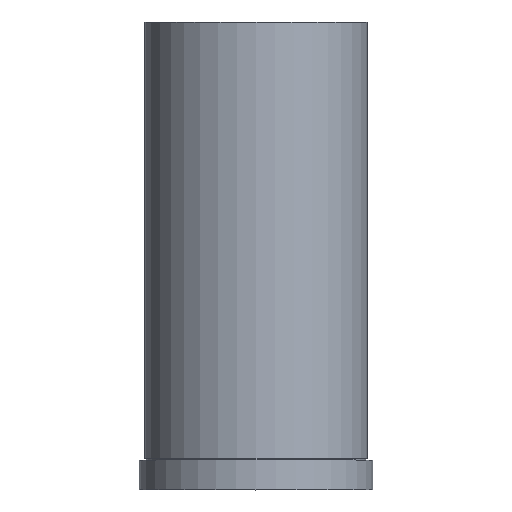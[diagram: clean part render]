
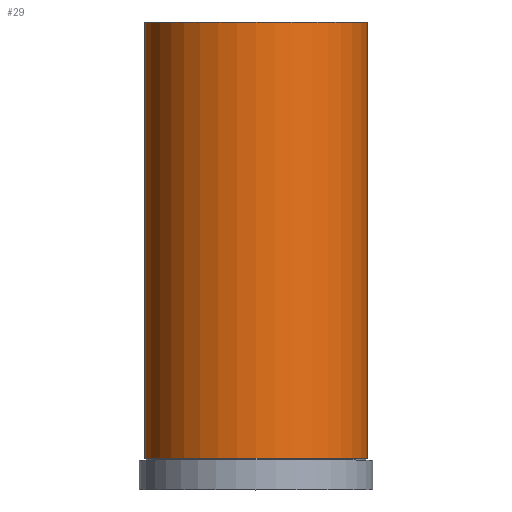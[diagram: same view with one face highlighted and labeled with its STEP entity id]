
A CAD part, top view. The second image highlights one B-rep face of the part: STEP entity #29.
In plain terms, the highlighted cylindrical face has radius 47.631 mm (diameter 95.263 mm), a partial arc.
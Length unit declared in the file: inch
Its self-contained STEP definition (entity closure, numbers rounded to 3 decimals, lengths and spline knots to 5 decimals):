
#29 = ADVANCED_FACE ( 'NONE', ( #235 ), #234, .T. ) ;
#30 = EDGE_LOOP ( 'NONE', ( #31, #35, #79, #71 ) ) ;
#31 = ORIENTED_EDGE ( 'NONE', *, *, #32, .T. ) ;
#32 = EDGE_CURVE ( 'NONE', #33, #34, #247, .T. ) ;
#33 = VERTEX_POINT ( 'NONE', #242 ) ;
#34 = VERTEX_POINT ( 'NONE', #241 ) ;
#35 = ORIENTED_EDGE ( 'NONE', *, *, #36, .T. ) ;
#36 = EDGE_CURVE ( 'NONE', #34, #37, #177, .T. ) ;
#37 = VERTEX_POINT ( 'NONE', #261 ) ;
#71 = ORIENTED_EDGE ( 'NONE', *, *, #76, .F. ) ;
#76 = EDGE_CURVE ( 'NONE', #33, #78, #306, .T. ) ;
#77 = EDGE_CURVE ( 'NONE', #78, #37, #348, .T. ) ;
#78 = VERTEX_POINT ( 'NONE', #343 ) ;
#79 = ORIENTED_EDGE ( 'NONE', *, *, #77, .F. ) ;
#177 = LINE ( 'NONE', #215, #214 ) ;
#214 = VECTOR ( 'NONE', #216, 39.37008 ) ;
#215 = CARTESIAN_POINT ( 'NONE',  ( -1.87525, -39.37008, 0. ) ) ;
#216 = DIRECTION ( 'NONE',  ( 0., -1., 0. ) ) ;
#232 = CARTESIAN_POINT ( 'NONE',  ( 0., -39.37008, 0. ) ) ;
#233 = AXIS2_PLACEMENT_3D ( 'NONE', #232, #258, #257 ) ;
#234 = CYLINDRICAL_SURFACE ( 'NONE', #233, 1.87525 ) ;
#235 = FACE_OUTER_BOUND ( 'NONE', #30, .T. ) ;
#241 = CARTESIAN_POINT ( 'NONE',  ( -1.87525, 7.875, 0. ) ) ;
#242 = CARTESIAN_POINT ( 'NONE',  ( 1.87525, 7.875, 0. ) ) ;
#243 = DIRECTION ( 'NONE',  ( 1., 0., 0. ) ) ;
#244 = DIRECTION ( 'NONE',  ( 0., -1., 0. ) ) ;
#245 = CARTESIAN_POINT ( 'NONE',  ( 0., 7.875, 0. ) ) ;
#246 = AXIS2_PLACEMENT_3D ( 'NONE', #245, #244, #243 ) ;
#247 = CIRCLE ( 'NONE', #246, 1.87525 ) ;
#257 = DIRECTION ( 'NONE',  ( 1., 0., 0. ) ) ;
#258 = DIRECTION ( 'NONE',  ( 0., -1., 0. ) ) ;
#261 = CARTESIAN_POINT ( 'NONE',  ( -1.87525, 0.53, 0. ) ) ;
#283 = DIRECTION ( 'NONE',  ( 0., -1., 0. ) ) ;
#284 = VECTOR ( 'NONE', #283, 39.37008 ) ;
#285 = CARTESIAN_POINT ( 'NONE',  ( 1.87525, -39.37008, 0. ) ) ;
#306 = LINE ( 'NONE', #285, #284 ) ;
#343 = CARTESIAN_POINT ( 'NONE',  ( 1.87525, 0.53, 0. ) ) ;
#344 = DIRECTION ( 'NONE',  ( 1., 0., 0. ) ) ;
#345 = DIRECTION ( 'NONE',  ( 0., -1., 0. ) ) ;
#346 = CARTESIAN_POINT ( 'NONE',  ( 0., 0.53, 0. ) ) ;
#347 = AXIS2_PLACEMENT_3D ( 'NONE', #346, #345, #344 ) ;
#348 = CIRCLE ( 'NONE', #347, 1.87525 ) ;
